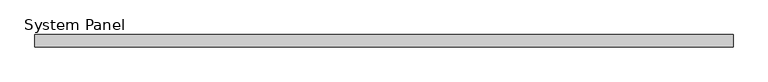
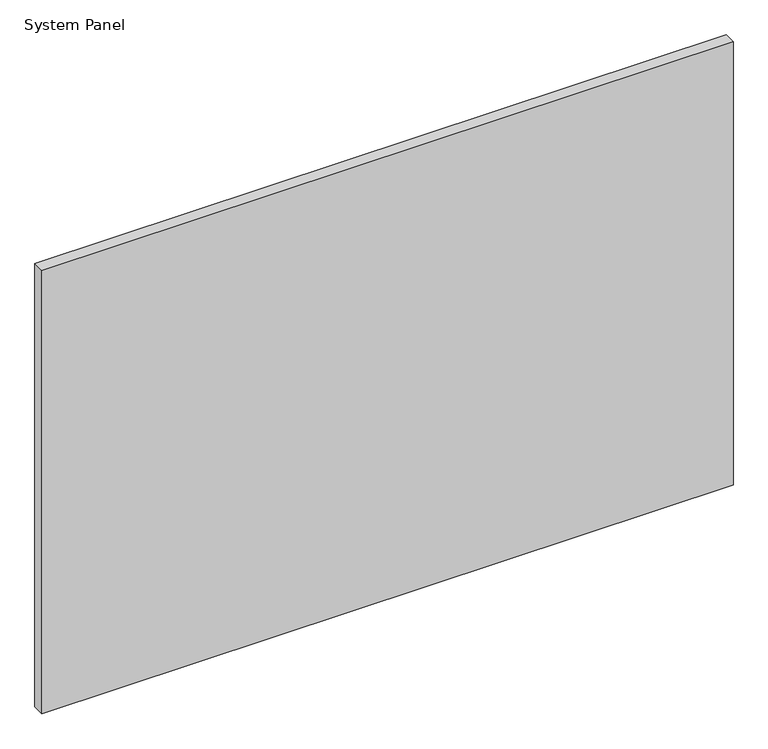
"""IFC4 building model written with IfcOpenShell, lengths in millimetres: plate geometry, System Panel : Glazed - ACMP (AL-1)."""

from ifc_helpers import new_model, si_unit, origin, origin_with_axes, place, context, project, spatial, polyline, outline, extrude, source, transform, mapped, element, save


def system_panel_f1fb556b(model_context):
    return source(origin(), model_context, "Body", "SweptSolid", [
        extrude(outline(polyline([(730.25, 0.0), (-730.25, 0.0), (-730.25, 25.4), (730.25, 25.4), (730.25, 0.0)])), origin_with_axes(), (0.0, 0.0, 1.0), 990.5999994),
    ])


if __name__ == "__main__":
    model = new_model("IFC4")
    model_context = context("Model", 3, world=origin())
    ifc_project = project(units=[si_unit("LENGTHUNIT", "METRE", prefix="MILLI")], contexts=[model_context])
    site = spatial("IfcSite", under=ifc_project)
    building = spatial("IfcBuilding", under=site)
    placement = place(None, origin())
    system_panel_shape = system_panel_f1fb556b(model_context)
    element("IfcPlate", 1, ObjectType="System Panel : Glazed - ACMP (AL-1)", at=placement, inside=building, context=model_context, shape_type="MappedRepresentation", body=[
        mapped(system_panel_shape, transform((0.0, 0.0, 0.0), x_axis=(1.0, 0.0, 0.0), y_axis=(0.0, 1.0, 0.0), z_axis=(0.0, 0.0, 1.0))),
    ])
    save(model, "model.ifc")
